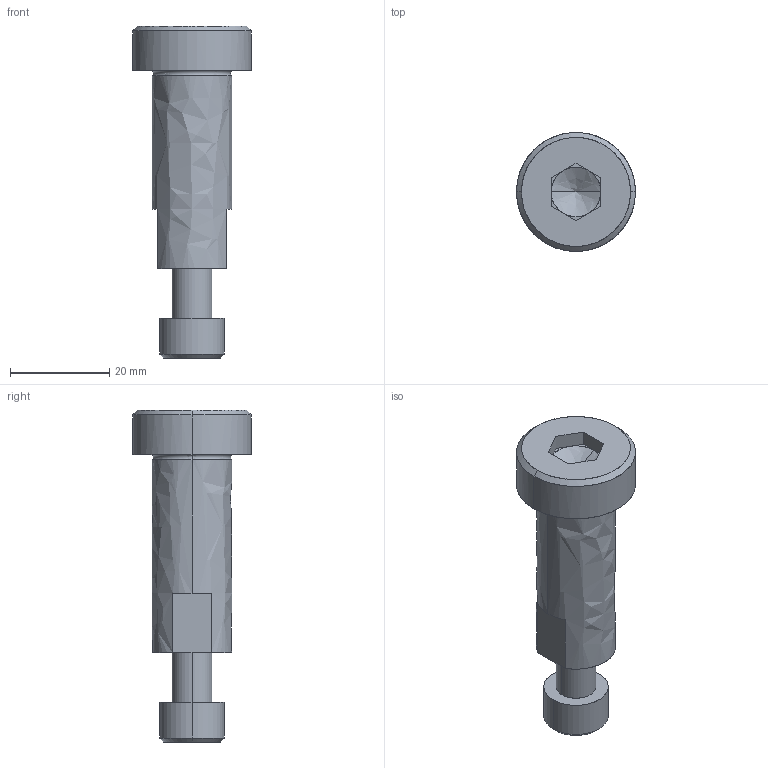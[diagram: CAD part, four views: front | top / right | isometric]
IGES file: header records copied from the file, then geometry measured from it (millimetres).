
Global section: file name: E:\UnigraphicsGraphicData\MISUMI_PRESS-PARTS\IGES\3d_sbt16-40_05071_r00.igs; native system: NX V5.0; preprocessor: UGS NX IGES V5.0; author: MISUMI; date: 20110105.162437; units: millimetre
Bounding box: 24 x 24 x 67 mm (x, y, z)
Surface area: 5607.1 mm2 (no closed solid volume)
Topology: 0 solids, 0 shells, 56 faces, 310 edges, 306 vertices
Faces by surface type: bspline 56
